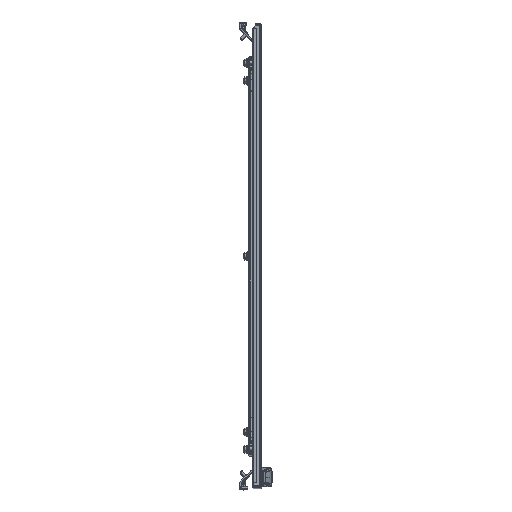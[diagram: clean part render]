
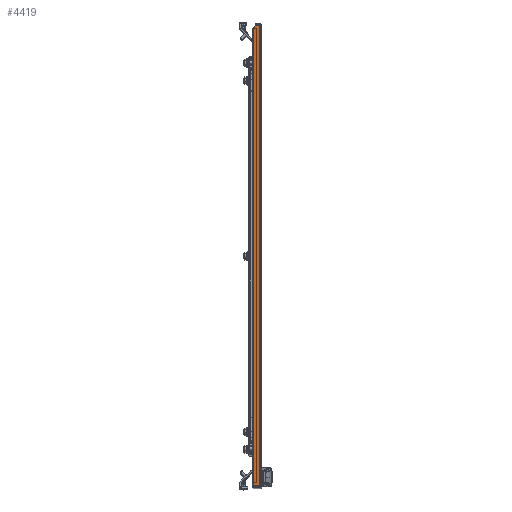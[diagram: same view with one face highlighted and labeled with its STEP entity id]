
A CAD part, top view. The second image highlights one B-rep face of the part: STEP entity #4419.
In plain terms, the highlighted planar face has unit normal (0, 0, 1).
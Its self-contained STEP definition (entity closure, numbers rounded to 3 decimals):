
#4419=ADVANCED_FACE('',(#12344),#12346,.T.);
#12344=FACE_BOUND('',#12345,.T.);
#12345=EDGE_LOOP('',(#31803,#31804,#31805,#31806,#31807,#31808,#31809,#31810,#31811));
#12346=PLANE('',#12347);
#12347=AXIS2_PLACEMENT_3D('',#12348,#12349,#12350);
#12348=CARTESIAN_POINT('',(-13.5,-393.2,885.5));
#12349=DIRECTION('',(0.,0.,1.));
#12350=DIRECTION('',(1.,0.,0.));
#31803=ORIENTED_EDGE('',*,*,#38648,.T.);
#31804=ORIENTED_EDGE('',*,*,#38654,.F.);
#31805=ORIENTED_EDGE('',*,*,#38655,.T.);
#31806=ORIENTED_EDGE('',*,*,#38656,.T.);
#31807=ORIENTED_EDGE('',*,*,#38657,.T.);
#31808=ORIENTED_EDGE('',*,*,#38658,.F.);
#31809=ORIENTED_EDGE('',*,*,#38659,.T.);
#31810=ORIENTED_EDGE('',*,*,#38660,.T.);
#31811=ORIENTED_EDGE('',*,*,#38611,.T.);
#38611=EDGE_CURVE('',#42131,#42129,#42132,.T.);
#38648=EDGE_CURVE('',#42129,#42194,#42196,.T.);
#38654=EDGE_CURVE('',#42205,#42194,#42206,.T.);
#38655=EDGE_CURVE('',#42205,#42207,#42208,.F.);
#38656=EDGE_CURVE('',#42207,#42209,#42210,.T.);
#38657=EDGE_CURVE('',#42209,#42211,#42212,.T.);
#38658=EDGE_CURVE('',#42213,#42211,#42214,.T.);
#38659=EDGE_CURVE('',#42213,#42215,#42216,.F.);
#38660=EDGE_CURVE('',#42215,#42131,#42217,.F.);
#42129=VERTEX_POINT('',#48074);
#42131=VERTEX_POINT('',#48079);
#42132=LINE('',#48080,#48081);
#42194=VERTEX_POINT('',#48223);
#42196=LINE('',#48227,#48228);
#42205=VERTEX_POINT('',#48250);
#42206=LINE('',#48251,#48252);
#42207=VERTEX_POINT('',#48254);
#42208=CIRCLE('',#48255,2.8);
#42209=VERTEX_POINT('',#48259);
#42210=LINE('',#48260,#48261);
#42211=VERTEX_POINT('',#48263);
#42212=LINE('',#48264,#48265);
#42213=VERTEX_POINT('',#48267);
#42214=LINE('',#48268,#48269);
#42215=VERTEX_POINT('',#48271);
#42216=CIRCLE('',#48272,1.55);
#42217=LINE('',#48276,#48277);
#48074=CARTESIAN_POINT('',(-11.95,-388.,885.5));
#48079=CARTESIAN_POINT('',(-11.95,387.859,885.5));
#48080=CARTESIAN_POINT('',(-11.95,387.859,885.5));
#48081=VECTOR('',#48082,1.);
#48082=DIRECTION('',(0.,-1.,0.));
#48223=CARTESIAN_POINT('',(-13.5,-388.,885.5));
#48227=CARTESIAN_POINT('',(-11.95,-388.,885.5));
#48228=VECTOR('',#48229,1.);
#48229=DIRECTION('',(-1.,0.,0.));
#48250=CARTESIAN_POINT('',(-13.5,-393.2,885.5));
#48251=CARTESIAN_POINT('',(-13.5,-393.2,885.5));
#48252=VECTOR('',#48253,1.);
#48253=DIRECTION('',(0.,1.,0.));
#48254=CARTESIAN_POINT('',(-10.7,-396.,885.5));
#48255=AXIS2_PLACEMENT_3D('',#48256,#48257,#48258);
#48256=CARTESIAN_POINT('',(-10.7,-393.2,885.5));
#48257=DIRECTION('',(0.,0.,-1.));
#48258=DIRECTION('',(0.,-1.,0.));
#48259=CARTESIAN_POINT('',(-1.3,-396.,885.5));
#48260=CARTESIAN_POINT('',(-10.7,-396.,885.5));
#48261=VECTOR('',#48262,1.);
#48262=DIRECTION('',(1.,0.,0.));
#48263=CARTESIAN_POINT('',(-1.3,396.,885.5));
#48264=CARTESIAN_POINT('',(-1.3,-396.,885.5));
#48265=VECTOR('',#48266,1.);
#48266=DIRECTION('',(0.,1.,0.));
#48267=CARTESIAN_POINT('',(-7.95,396.,885.5));
#48268=CARTESIAN_POINT('',(-7.95,396.,885.5));
#48269=VECTOR('',#48270,1.);
#48270=DIRECTION('',(1.,0.,0.));
#48271=CARTESIAN_POINT('',(-9.226,393.57,885.5));
#48272=AXIS2_PLACEMENT_3D('',#48273,#48274,#48275);
#48273=CARTESIAN_POINT('',(-7.95,394.45,885.5));
#48274=DIRECTION('',(0.,0.,-1.));
#48275=DIRECTION('',(-0.823,-0.568,0.));
#48276=CARTESIAN_POINT('',(-11.95,387.859,885.5));
#48277=VECTOR('',#48278,1.);
#48278=DIRECTION('',(0.431,0.903,0.));
